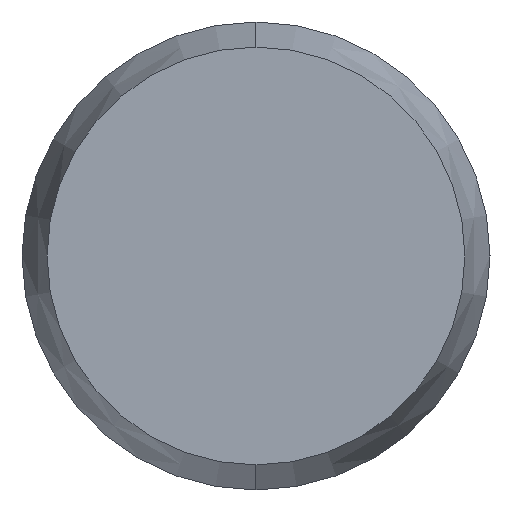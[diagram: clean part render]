
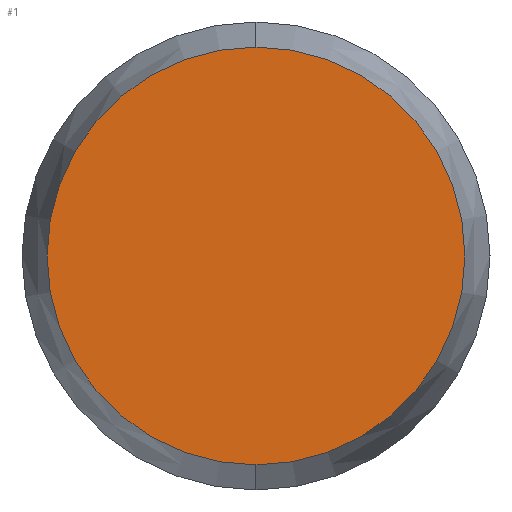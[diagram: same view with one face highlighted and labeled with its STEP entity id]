
A CAD part, left-side view. The second image highlights one B-rep face of the part: STEP entity #1.
In plain terms, the highlighted planar face has unit normal (-1, 0, 0).
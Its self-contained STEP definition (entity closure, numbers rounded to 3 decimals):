
#1 = ADVANCED_FACE ( 'NONE', ( #60 ), #49, .F. ) ;
#5 = EDGE_CURVE ( 'NONE', #264, #263, #62, .T. ) ;
#10 = EDGE_LOOP ( 'NONE', ( #11, #274 ) ) ;
#11 = ORIENTED_EDGE ( 'NONE', *, *, #262, .F. ) ;
#49 = PLANE ( 'NONE',  #53 ) ;
#51 = DIRECTION ( 'NONE',  ( 1., 0., 0. ) ) ;
#52 = CARTESIAN_POINT ( 'NONE',  ( -6., 0., 0. ) ) ;
#53 = AXIS2_PLACEMENT_3D ( 'NONE', #52, #51, #61 ) ;
#56 = DIRECTION ( 'NONE',  ( 0., 0., -1. ) ) ;
#57 = DIRECTION ( 'NONE',  ( 1., 0., 0. ) ) ;
#58 = CARTESIAN_POINT ( 'NONE',  ( -6., 0., 0. ) ) ;
#59 = AXIS2_PLACEMENT_3D ( 'NONE', #58, #57, #56 ) ;
#60 = FACE_OUTER_BOUND ( 'NONE', #10, .T. ) ;
#61 = DIRECTION ( 'NONE',  ( 0., 0., -1. ) ) ;
#62 = CIRCLE ( 'NONE', #59, 0.446 ) ;
#152 = CARTESIAN_POINT ( 'NONE',  ( -6., 0., 0. ) ) ;
#153 = CARTESIAN_POINT ( 'NONE',  ( -6., 0., 0.446 ) ) ;
#154 = DIRECTION ( 'NONE',  ( 0., 0., -1. ) ) ;
#156 = DIRECTION ( 'NONE',  ( 1., 0., 0. ) ) ;
#159 = AXIS2_PLACEMENT_3D ( 'NONE', #152, #156, #154 ) ;
#160 = CIRCLE ( 'NONE', #159, 0.446 ) ;
#162 = CARTESIAN_POINT ( 'NONE',  ( -6., 0., -0.446 ) ) ;
#262 = EDGE_CURVE ( 'NONE', #263, #264, #160, .T. ) ;
#263 = VERTEX_POINT ( 'NONE', #153 ) ;
#264 = VERTEX_POINT ( 'NONE', #162 ) ;
#274 = ORIENTED_EDGE ( 'NONE', *, *, #5, .F. ) ;
